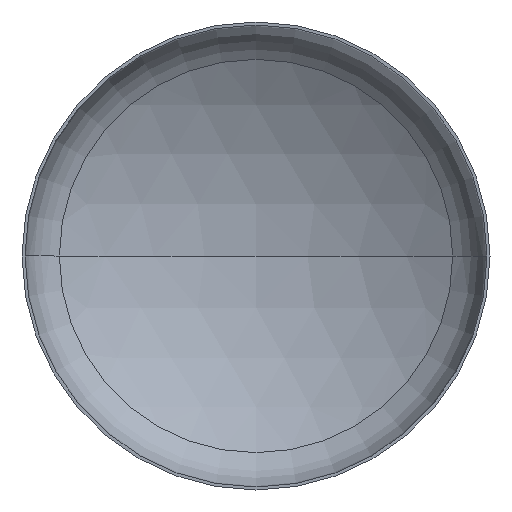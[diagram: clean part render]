
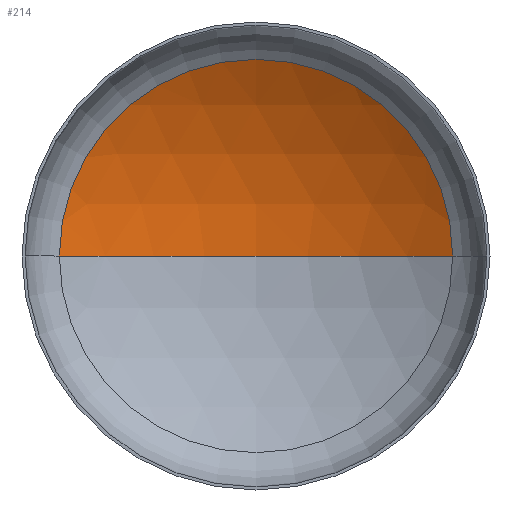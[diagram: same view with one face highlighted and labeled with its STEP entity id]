
A CAD part, front view. The second image highlights one B-rep face of the part: STEP entity #214.
In plain terms, the highlighted spherical face has radius 2720 mm.
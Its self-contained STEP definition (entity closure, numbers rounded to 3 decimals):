
#6 = EDGE_LOOP ( 'NONE', ( #101, #87, #15 ) ) ;
#15 = ORIENTED_EDGE ( 'NONE', *, *, #130, .T. ) ;
#21 = CARTESIAN_POINT ( 'NONE',  ( 0., 516.736, 0. ) ) ;
#28 = AXIS2_PLACEMENT_3D ( 'NONE', #254, #190, #189 ) ;
#31 = VERTEX_POINT ( 'NONE', #304 ) ;
#40 = AXIS2_PLACEMENT_3D ( 'NONE', #236, #237, #278 ) ;
#41 = CIRCLE ( 'NONE', #50, 1428.774 ) ;
#42 = AXIS2_PLACEMENT_3D ( 'NONE', #141, #199, #219 ) ;
#43 = VERTEX_POINT ( 'NONE', #253 ) ;
#50 = AXIS2_PLACEMENT_3D ( 'NONE', #21, #224, #174 ) ;
#87 = ORIENTED_EDGE ( 'NONE', *, *, #138, .T. ) ;
#101 = ORIENTED_EDGE ( 'NONE', *, *, #151, .F. ) ;
#130 = EDGE_CURVE ( 'NONE', #43, #31, #41, .T. ) ;
#135 = VERTEX_POINT ( 'NONE', #308 ) ;
#138 = EDGE_CURVE ( 'NONE', #135, #43, #300, .T. ) ;
#141 = CARTESIAN_POINT ( 'NONE',  ( 0., -1797.784, 0. ) ) ;
#151 = EDGE_CURVE ( 'NONE', #135, #31, #172, .T. ) ;
#172 = CIRCLE ( 'NONE', #40, 2720. ) ;
#174 = DIRECTION ( 'NONE',  ( 1., 0., 0. ) ) ;
#189 = DIRECTION ( 'NONE',  ( -1., 0., 0. ) ) ;
#190 = DIRECTION ( 'NONE',  ( 0., 0., -1. ) ) ;
#199 = DIRECTION ( 'NONE',  ( 0., 0., -1. ) ) ;
#214 = ADVANCED_FACE ( 'NONE', ( #289 ), #410, .F. ) ;
#219 = DIRECTION ( 'NONE',  ( -1., 0., 0. ) ) ;
#224 = DIRECTION ( 'NONE',  ( 0., -1., 0. ) ) ;
#236 = CARTESIAN_POINT ( 'NONE',  ( 0., -1797.784, 0. ) ) ;
#237 = DIRECTION ( 'NONE',  ( 0., 0., 1. ) ) ;
#253 = CARTESIAN_POINT ( 'NONE',  ( 1428.774, 516.736, 0. ) ) ;
#254 = CARTESIAN_POINT ( 'NONE',  ( 0., -1797.784, 0. ) ) ;
#278 = DIRECTION ( 'NONE',  ( 1., 0., 0. ) ) ;
#289 = FACE_OUTER_BOUND ( 'NONE', #6, .T. ) ;
#300 = CIRCLE ( 'NONE', #42, 2720. ) ;
#304 = CARTESIAN_POINT ( 'NONE',  ( -1428.774, 516.736, 0. ) ) ;
#308 = CARTESIAN_POINT ( 'NONE',  ( 0., 922.216, 0. ) ) ;
#410 = SPHERICAL_SURFACE ( 'NONE', #28, 2720. ) ;
